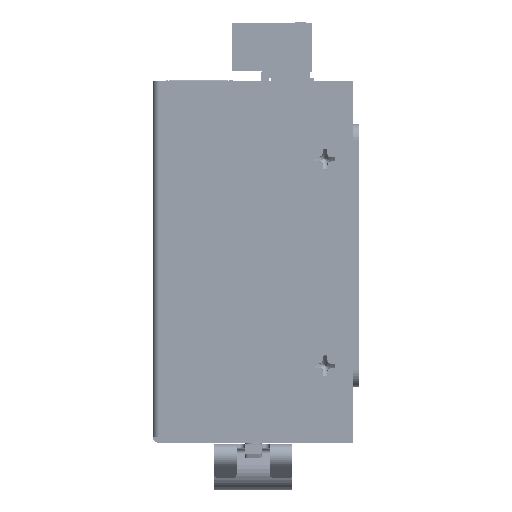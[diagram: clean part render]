
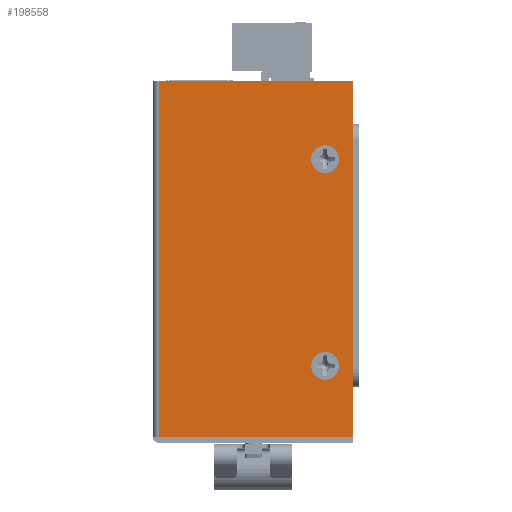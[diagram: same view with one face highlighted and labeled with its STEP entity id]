
A CAD part, left-side view. The second image highlights one B-rep face of the part: STEP entity #198558.
In plain terms, the highlighted planar face has unit normal (-1, 0, 0).
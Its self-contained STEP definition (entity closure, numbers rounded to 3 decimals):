
#4596=FACE_BOUND('',#34853,.T.);
#4597=FACE_BOUND('',#34854,.T.);
#11694=PLANE('',#213210);
#24041=FACE_OUTER_BOUND('',#34852,.T.);
#34852=EDGE_LOOP('',(#188150,#188151,#188152,#188153));
#34853=EDGE_LOOP('',(#188154,#188155));
#34854=EDGE_LOOP('',(#188156,#188157));
#57229=LINE('',#442701,#79606);
#57233=LINE('',#442711,#79610);
#57240=LINE('',#442729,#79617);
#57242=LINE('',#442732,#79619);
#79606=VECTOR('',#263871,10.);
#79610=VECTOR('',#263881,0.365);
#79617=VECTOR('',#263900,10.);
#79619=VECTOR('',#263904,10.);
#83256=CIRCLE('',#213104,2.5);
#83257=CIRCLE('',#213105,2.5);
#83260=CIRCLE('',#213109,2.5);
#83261=CIRCLE('',#213110,2.5);
#101558=VERTEX_POINT('',#438834);
#101559=VERTEX_POINT('',#438835);
#101562=VERTEX_POINT('',#438844);
#101563=VERTEX_POINT('',#438845);
#101822=VERTEX_POINT('',#442699);
#101823=VERTEX_POINT('',#442700);
#101826=VERTEX_POINT('',#442709);
#101831=VERTEX_POINT('',#442728);
#130209=EDGE_CURVE('',#101558,#101559,#83256,.T.);
#130210=EDGE_CURVE('',#101559,#101558,#83257,.T.);
#130214=EDGE_CURVE('',#101562,#101563,#83260,.T.);
#130215=EDGE_CURVE('',#101563,#101562,#83261,.T.);
#130597=EDGE_CURVE('',#101822,#101823,#57229,.T.);
#130603=EDGE_CURVE('',#101823,#101826,#57233,.T.);
#130612=EDGE_CURVE('',#101831,#101822,#57240,.T.);
#130614=EDGE_CURVE('',#101826,#101831,#57242,.T.);
#188150=ORIENTED_EDGE('',*,*,#130597,.T.);
#188151=ORIENTED_EDGE('',*,*,#130603,.T.);
#188152=ORIENTED_EDGE('',*,*,#130614,.T.);
#188153=ORIENTED_EDGE('',*,*,#130612,.T.);
#188154=ORIENTED_EDGE('',*,*,#130209,.F.);
#188155=ORIENTED_EDGE('',*,*,#130210,.F.);
#188156=ORIENTED_EDGE('',*,*,#130214,.T.);
#188157=ORIENTED_EDGE('',*,*,#130215,.T.);
#198558=ADVANCED_FACE('',(#24041,#4596,#4597),#11694,.T.);
#213104=AXIS2_PLACEMENT_3D('',#438836,#263445,#263446);
#213105=AXIS2_PLACEMENT_3D('',#438837,#263447,#263448);
#213109=AXIS2_PLACEMENT_3D('',#438846,#263456,#263457);
#213110=AXIS2_PLACEMENT_3D('',#438847,#263458,#263459);
#213210=AXIS2_PLACEMENT_3D('',#442735,#263908,#263909);
#263445=DIRECTION('center_axis',(-1.,0.,0.));
#263446=DIRECTION('ref_axis',(0.,0.,
-1.));
#263447=DIRECTION('center_axis',(-1.,0.,0.));
#263448=DIRECTION('ref_axis',(0.,0.,
-1.));
#263456=DIRECTION('center_axis',(1.,0.,0.));
#263457=DIRECTION('ref_axis',(0.,-1.,0.));
#263458=DIRECTION('center_axis',(1.,0.,0.));
#263459=DIRECTION('ref_axis',(0.,-1.,0.));
#263871=DIRECTION('',(0.,0.,-1.));
#263881=DIRECTION('',(0.,-1.,0.));
#263900=DIRECTION('',(0.,1.,0.));
#263904=DIRECTION('',(0.,0.,1.));
#263908=DIRECTION('center_axis',(-1.,0.,0.));
#263909=DIRECTION('ref_axis',(0.,0.,
1.));
#438834=CARTESIAN_POINT('',(0.,7.6,-51.16));
#438835=CARTESIAN_POINT('',(0.,5.1,-48.66));
#438836=CARTESIAN_POINT('Origin',(0.,5.1,
-51.16));
#438837=CARTESIAN_POINT('Origin',(0.,5.1,
-51.16));
#438844=CARTESIAN_POINT('',(0.,5.1,-11.58));
#438845=CARTESIAN_POINT('',(0.,7.6,-14.08));
#438846=CARTESIAN_POINT('Origin',(0.,5.1,
-14.08));
#438847=CARTESIAN_POINT('Origin',(0.,5.1,
-14.08));
#442699=CARTESIAN_POINT('',(0.,34.99,0.));
#442700=CARTESIAN_POINT('',(0.,34.99,-63.99));
#442701=CARTESIAN_POINT('',(0.,34.99,-31.995));
#442709=CARTESIAN_POINT('',(0.,0.,-63.99));
#442711=CARTESIAN_POINT('',(0.,36.137,-63.99));
#442728=CARTESIAN_POINT('',(0.,0.,0.));
#442729=CARTESIAN_POINT('',(0.,34.99,0.));
#442732=CARTESIAN_POINT('',(0.,0.,0.));
#442735=CARTESIAN_POINT('Origin',(0.,17.782,
-31.995));
